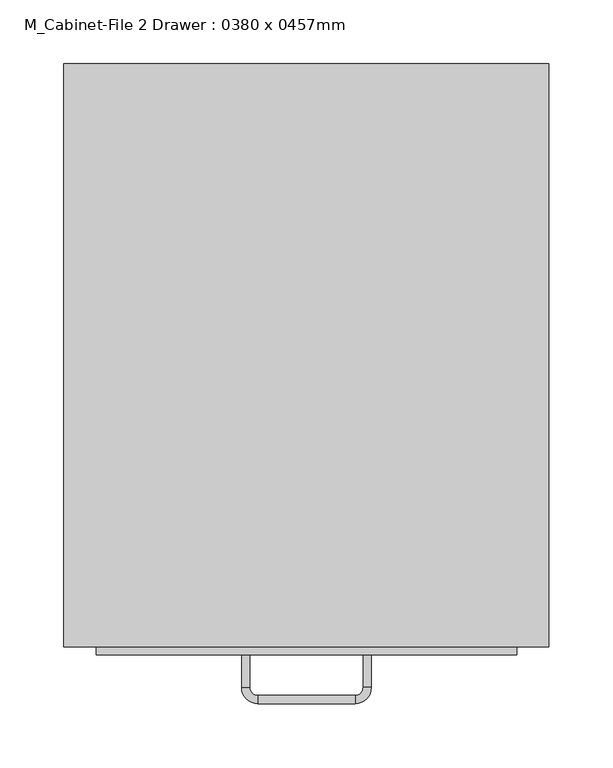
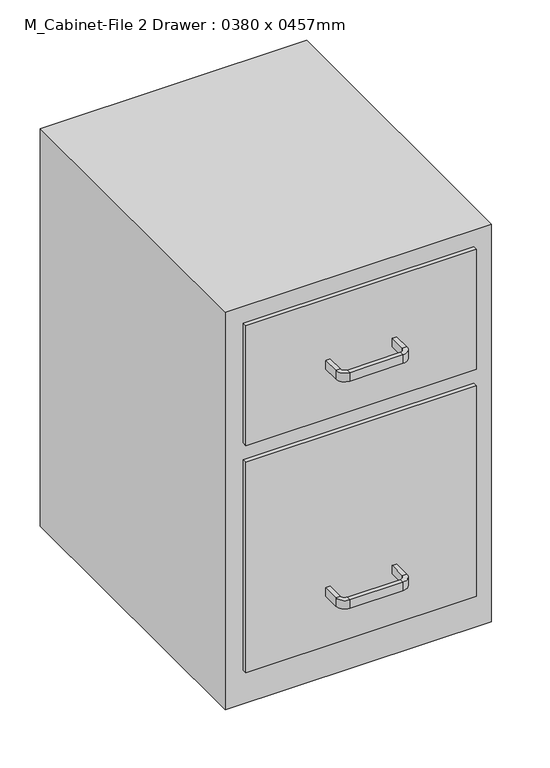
"""IFC4 building model written with IfcOpenShell, lengths in millimetres: furniture geometry, M_Cabinet-File 2 Drawer : 0380 x 0457mm."""

from ifc_helpers import new_model, si_unit, frame, origin, origin_with_axes, place, context, project, spatial, polyline, circle_curve, outline, extrude, source, transform, mapped, element, save
from ifc_brep_helpers import plane_surface, cylinder_surface, revolved_surface, advanced_brep


def m_cabinet_file_2_drawer_0380_x_0457mm_73eb37cc(model_context):
    return source(origin(), model_context, "Body", "SolidModel", [
        extrude(outline(polyline([(36.703553, -376.9843001), (-292.496447, -376.9843001), (-292.496447, -370.6343001), (36.703553, -370.6343001), (36.703553, -376.9843001)])), frame((0.0, 0.0, 393.7), z_axis=(0.0, 0.0, 1.0), x_axis=(1.0, 0.0, 0.0)), (0.0, 0.0, 1.0), 180.9),
        extrude(outline(polyline([(36.703553, -376.9843001), (-292.496447, -376.9843001), (-292.496447, -370.6343001), (36.703553, -370.6343001), (36.703553, -376.9843001)])), frame((0.0, 0.0, 50.8), z_axis=(0.0, 0.0, 1.0), x_axis=(1.0, 0.0, 0.0)), (0.0, 0.0, 1.0), 317.5),
        advanced_brep(
        [(-172.346447, -376.9843001, 127.0), (-178.696447, -376.9843001, 127.0), (-178.696447, -376.9843001, 139.7), (-172.346447, -376.9843001, 139.7), (-172.346447, -402.3843001, 127.0), (-178.696447, -402.3843001, 127.0), (-178.696447, -402.3843001, 139.7), (-172.346447, -402.3843001, 139.7), (-165.996447, -415.0843001, 127.0), (-165.996447, -408.7343001, 127.0), (-165.996447, -415.0843001, 139.7), (-165.996447, -408.7343001, 139.7), (-89.796447, -408.7343001, 127.0), (-89.796447, -415.0843001, 127.0), (-89.796447, -415.0843001, 139.7), (-89.796447, -408.7343001, 139.7), (-77.096447, -402.3843001, 127.0), (-83.446447, -402.3843001, 127.0), (-77.096447, -402.3843001, 139.7), (-83.446447, -402.3843001, 139.7), (-83.446447, -376.9843001, 127.0), (-83.446447, -376.9843001, 139.7), (-77.096447, -376.9843001, 139.7), (-77.096447, -376.9843001, 127.0)],
        [
            (0, 1),
            (1, 2),
            (2, 3),
            (3, 0),
            (0, 4),
            (4, 5),
            (5, 1),
            (5, 6),
            (6, 2),
            (6, 7),
            (7, 3),
            (7, 4),
            (8, 5, circle_curve(frame((-165.996447, -402.3843001, 127.0), z_axis=(0.0, 0.0, -1.0), x_axis=(-1.0, 0.0, 0.0)), 12.7)),
            (4, 9, circle_curve(frame((-165.996447, -402.3843001, 127.0), z_axis=(0.0, 0.0, 1.0), x_axis=(-1.0, 0.0, 0.0)), 6.35)),
            (9, 8),
            (10, 6, circle_curve(frame((-165.996447, -402.3843001, 139.7), z_axis=(0.0, 0.0, -1.0), x_axis=(-1.0, 0.0, 0.0)), 12.7)),
            (8, 10),
            (11, 7, circle_curve(frame((-165.996447, -402.3843001, 139.7), z_axis=(0.0, 0.0, -1.0), x_axis=(-1.0, 0.0, 0.0)), 6.35)),
            (10, 11),
            (11, 9),
            (9, 12),
            (12, 13),
            (13, 8),
            (13, 14),
            (14, 10),
            (14, 15),
            (15, 11),
            (15, 12),
            (16, 13, circle_curve(frame((-89.796447, -402.3843001, 127.0), z_axis=(0.0, 0.0, -1.0), x_axis=(0.0, -1.0, 0.0)), 12.7)),
            (12, 17, circle_curve(frame((-89.796447, -402.3843001, 127.0), z_axis=(0.0, 0.0, 1.0), x_axis=(0.0, -1.0, 0.0)), 6.35)),
            (17, 16),
            (18, 14, circle_curve(frame((-89.796447, -402.3843001, 139.7), z_axis=(0.0, 0.0, -1.0), x_axis=(0.0, -1.0, 0.0)), 12.7)),
            (16, 18),
            (19, 15, circle_curve(frame((-89.796447, -402.3843001, 139.7), z_axis=(0.0, 0.0, -1.0), x_axis=(0.0, -1.0, 0.0)), 6.35)),
            (18, 19),
            (19, 17),
            (20, 21),
            (21, 22),
            (22, 23),
            (23, 20),
            (17, 20),
            (23, 16),
            (22, 18),
            (21, 19),
        ],
        [
            plane_surface(frame((-661.3382215, -376.9843001, 0.0), z_axis=(0.0, 1.0, 0.0), x_axis=(0.0, 0.0, -1.0))),
            plane_surface(frame((-172.346447, -376.9843001, 127.0), z_axis=(0.0, 0.0, -1.0), x_axis=(0.0, -1.0, 0.0))),
            plane_surface(frame((-178.696447, -376.9843001, 127.0), z_axis=(-1.0, 0.0, 0.0), x_axis=(0.0, -1.0, 0.0))),
            plane_surface(frame((-178.696447, -376.9843001, 139.7), z_axis=(0.0, 0.0, 1.0), x_axis=(0.0, -1.0, 0.0))),
            plane_surface(frame((-172.346447, -376.9843001, 139.7), z_axis=(1.0, 0.0, 0.0), x_axis=(0.0, -1.0, 0.0))),
            plane_surface(frame((-165.996447, -402.3843001, 127.0), z_axis=(0.0, 0.0, -1.0), x_axis=(-1.0, 0.0, 0.0))),
            cylinder_surface(frame((-165.996447, -402.3843001, 0.0), z_axis=(0.0, 0.0, 1.0), x_axis=(-1.0, 0.0, 0.0)), 12.7),
            plane_surface(frame((-165.996447, -402.3843001, 139.7), z_axis=(0.0, 0.0, 1.0), x_axis=(-1.0, 0.0, 0.0))),
            revolved_surface(polyline([(-172.34644699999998, -402.3843001, 139.7), (-172.34644699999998, -402.3843001, 127.0)]), (-165.996447, -402.3843001, 0.0), (0.0, 0.0, 1.0)),
            plane_surface(frame((-165.996447, -408.7343001, 127.0), z_axis=(0.0, 0.0, -1.0), x_axis=(1.0, 0.0, 0.0))),
            plane_surface(frame((-165.996447, -415.0843001, 127.0), z_axis=(0.0, -1.0, 0.0), x_axis=(1.0, 0.0, 0.0))),
            plane_surface(frame((-165.996447, -415.0843001, 139.7), z_axis=(0.0, 0.0, 1.0), x_axis=(1.0, 0.0, 0.0))),
            plane_surface(frame((-165.996447, -408.7343001, 139.7), z_axis=(0.0, 1.0, 0.0), x_axis=(1.0, 0.0, 0.0))),
            plane_surface(frame((-89.796447, -402.3843001, 127.0), z_axis=(0.0, 0.0, -1.0), x_axis=(0.0, -1.0, 0.0))),
            cylinder_surface(frame((-89.796447, -402.3843001, 0.0), z_axis=(0.0, 0.0, 1.0), x_axis=(0.0, -1.0, 0.0)), 12.7),
            plane_surface(frame((-89.796447, -402.3843001, 139.7), z_axis=(0.0, 0.0, 1.0), x_axis=(0.0, -1.0, 0.0))),
            revolved_surface(polyline([(-89.796447, -408.73430010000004, 139.7), (-89.796447, -408.73430010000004, 127.0)]), (-89.796447, -402.3843001, 0.0), (0.0, 0.0, 1.0)),
            plane_surface(frame((-559.7382215, -376.9843001, 0.0), z_axis=(0.0, 1.0, 0.0), x_axis=(0.0, 0.0, 1.0))),
            plane_surface(frame((-83.446447, -402.3843001, 127.0), z_axis=(0.0, 0.0, -1.0), x_axis=(0.0, 1.0, 0.0))),
            plane_surface(frame((-77.096447, -402.3843001, 127.0), z_axis=(1.0, 0.0, 0.0), x_axis=(0.0, 1.0, 0.0))),
            plane_surface(frame((-77.096447, -402.3843001, 139.7), z_axis=(0.0, 0.0, 1.0), x_axis=(0.0, 1.0, 0.0))),
            plane_surface(frame((-83.446447, -402.3843001, 139.7), z_axis=(-1.0, 0.0, 0.0), x_axis=(0.0, 1.0, 0.0))),
        ],
        [
            (0, [[1, 2, 3, 4]]),
            (1, [[-1, 5, 6, 7]]),
            (2, [[-2, -7, 8, 9]]),
            (3, [[-3, -9, 10, 11]]),
            (4, [[-4, -11, 12, -5]]),
            (5, [[13, -6, 14, 15]]),
            (6, [[16, -8, -13, 17]]),
            (7, [[18, -10, -16, 19]]),
            (8, [[-14, -12, -18, 20]]),
            (9, [[-15, 21, 22, 23]]),
            (10, [[-17, -23, 24, 25]]),
            (11, [[-19, -25, 26, 27]]),
            (12, [[-20, -27, 28, -21]]),
            (13, [[29, -22, 30, 31]]),
            (14, [[32, -24, -29, 33]]),
            (15, [[34, -26, -32, 35]]),
            (16, [[-30, -28, -34, 36]]),
            (17, [[37, 38, 39, 40]]),
            (18, [[-31, 41, -40, 42]]),
            (19, [[-33, -42, -39, 43]]),
            (20, [[-35, -43, -38, 44]]),
            (21, [[-36, -44, -37, -41]]),
        ],
    ),
        advanced_brep(
        [(-172.346447, -376.9843001, 469.9), (-178.696447, -376.9843001, 469.9), (-178.696447, -376.9843001, 482.6), (-172.346447, -376.9843001, 482.6), (-172.346447, -402.3843001, 469.9), (-178.696447, -402.3843001, 469.9), (-178.696447, -402.3843001, 482.6), (-172.346447, -402.3843001, 482.6), (-165.996447, -415.0843001, 469.9), (-165.996447, -408.7343001, 469.9), (-165.996447, -415.0843001, 482.6), (-165.996447, -408.7343001, 482.6), (-89.796447, -408.7343001, 469.9), (-89.796447, -415.0843001, 469.9), (-89.796447, -415.0843001, 482.6), (-89.796447, -408.7343001, 482.6), (-77.096447, -402.3843001, 469.9), (-83.446447, -402.3843001, 469.9), (-77.096447, -402.3843001, 482.6), (-83.446447, -402.3843001, 482.6), (-83.446447, -376.9843001, 469.9), (-83.446447, -376.9843001, 482.6), (-77.096447, -376.9843001, 482.6), (-77.096447, -376.9843001, 469.9)],
        [
            (0, 1),
            (1, 2),
            (2, 3),
            (3, 0),
            (0, 4),
            (4, 5),
            (5, 1),
            (5, 6),
            (6, 2),
            (6, 7),
            (7, 3),
            (7, 4),
            (8, 5, circle_curve(frame((-165.996447, -402.3843001, 469.9), z_axis=(0.0, 0.0, -1.0), x_axis=(-1.0, 0.0, 0.0)), 12.7)),
            (4, 9, circle_curve(frame((-165.996447, -402.3843001, 469.9), z_axis=(0.0, 0.0, 1.0), x_axis=(-1.0, 0.0, 0.0)), 6.35)),
            (9, 8),
            (10, 6, circle_curve(frame((-165.996447, -402.3843001, 482.6), z_axis=(0.0, 0.0, -1.0), x_axis=(-1.0, 0.0, 0.0)), 12.7)),
            (8, 10),
            (11, 7, circle_curve(frame((-165.996447, -402.3843001, 482.6), z_axis=(0.0, 0.0, -1.0), x_axis=(-1.0, 0.0, 0.0)), 6.35)),
            (10, 11),
            (11, 9),
            (9, 12),
            (12, 13),
            (13, 8),
            (13, 14),
            (14, 10),
            (14, 15),
            (15, 11),
            (15, 12),
            (16, 13, circle_curve(frame((-89.796447, -402.3843001, 469.9), z_axis=(0.0, 0.0, -1.0), x_axis=(0.0, -1.0, 0.0)), 12.7)),
            (12, 17, circle_curve(frame((-89.796447, -402.3843001, 469.9), z_axis=(0.0, 0.0, 1.0), x_axis=(0.0, -1.0, 0.0)), 6.35)),
            (17, 16),
            (18, 14, circle_curve(frame((-89.796447, -402.3843001, 482.6), z_axis=(0.0, 0.0, -1.0), x_axis=(0.0, -1.0, 0.0)), 12.7)),
            (16, 18),
            (19, 15, circle_curve(frame((-89.796447, -402.3843001, 482.6), z_axis=(0.0, 0.0, -1.0), x_axis=(0.0, -1.0, 0.0)), 6.35)),
            (18, 19),
            (19, 17),
            (20, 21),
            (21, 22),
            (22, 23),
            (23, 20),
            (17, 20),
            (23, 16),
            (22, 18),
            (21, 19),
        ],
        [
            plane_surface(frame((-661.3382215, -376.9843001, 0.0), z_axis=(0.0, 1.0, 0.0), x_axis=(0.0, 0.0, -1.0))),
            plane_surface(frame((-172.346447, -376.9843001, 469.9), z_axis=(0.0, 0.0, -1.0), x_axis=(0.0, -1.0, 0.0))),
            plane_surface(frame((-178.696447, -376.9843001, 469.9), z_axis=(-1.0, 0.0, 0.0), x_axis=(0.0, -1.0, 0.0))),
            plane_surface(frame((-178.696447, -376.9843001, 482.6), z_axis=(0.0, 0.0, 1.0), x_axis=(0.0, -1.0, 0.0))),
            plane_surface(frame((-172.346447, -376.9843001, 482.6), z_axis=(1.0, 0.0, 0.0), x_axis=(0.0, -1.0, 0.0))),
            plane_surface(frame((-165.996447, -402.3843001, 469.9), z_axis=(0.0, 0.0, -1.0), x_axis=(-1.0, 0.0, 0.0))),
            cylinder_surface(frame((-165.996447, -402.3843001, 0.0), z_axis=(0.0, 0.0, 1.0), x_axis=(-1.0, 0.0, 0.0)), 12.7),
            plane_surface(frame((-165.996447, -402.3843001, 482.6), z_axis=(0.0, 0.0, 1.0), x_axis=(-1.0, 0.0, 0.0))),
            revolved_surface(polyline([(-172.34644699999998, -402.3843001, 482.6), (-172.34644699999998, -402.3843001, 469.9)]), (-165.996447, -402.3843001, 0.0), (0.0, 0.0, 1.0)),
            plane_surface(frame((-165.996447, -408.7343001, 469.9), z_axis=(0.0, 0.0, -1.0), x_axis=(1.0, 0.0, 0.0))),
            plane_surface(frame((-165.996447, -415.0843001, 469.9), z_axis=(0.0, -1.0, 0.0), x_axis=(1.0, 0.0, 0.0))),
            plane_surface(frame((-165.996447, -415.0843001, 482.6), z_axis=(0.0, 0.0, 1.0), x_axis=(1.0, 0.0, 0.0))),
            plane_surface(frame((-165.996447, -408.7343001, 482.6), z_axis=(0.0, 1.0, 0.0), x_axis=(1.0, 0.0, 0.0))),
            plane_surface(frame((-89.796447, -402.3843001, 469.9), z_axis=(0.0, 0.0, -1.0), x_axis=(0.0, -1.0, 0.0))),
            cylinder_surface(frame((-89.796447, -402.3843001, 0.0), z_axis=(0.0, 0.0, 1.0), x_axis=(0.0, -1.0, 0.0)), 12.7),
            plane_surface(frame((-89.796447, -402.3843001, 482.6), z_axis=(0.0, 0.0, 1.0), x_axis=(0.0, -1.0, 0.0))),
            revolved_surface(polyline([(-89.796447, -408.73430010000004, 482.6), (-89.796447, -408.73430010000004, 469.9)]), (-89.796447, -402.3843001, 0.0), (0.0, 0.0, 1.0)),
            plane_surface(frame((-559.7382215, -376.9843001, 0.0), z_axis=(0.0, 1.0, 0.0), x_axis=(0.0, 0.0, 1.0))),
            plane_surface(frame((-83.446447, -402.3843001, 469.9), z_axis=(0.0, 0.0, -1.0), x_axis=(0.0, 1.0, 0.0))),
            plane_surface(frame((-77.096447, -402.3843001, 469.9), z_axis=(1.0, 0.0, 0.0), x_axis=(0.0, 1.0, 0.0))),
            plane_surface(frame((-77.096447, -402.3843001, 482.6), z_axis=(0.0, 0.0, 1.0), x_axis=(0.0, 1.0, 0.0))),
            plane_surface(frame((-83.446447, -402.3843001, 482.6), z_axis=(-1.0, 0.0, 0.0), x_axis=(0.0, 1.0, 0.0))),
        ],
        [
            (0, [[1, 2, 3, 4]]),
            (1, [[-1, 5, 6, 7]]),
            (2, [[-2, -7, 8, 9]]),
            (3, [[-3, -9, 10, 11]]),
            (4, [[-4, -11, 12, -5]]),
            (5, [[13, -6, 14, 15]]),
            (6, [[16, -8, -13, 17]]),
            (7, [[18, -10, -16, 19]]),
            (8, [[-14, -12, -18, 20]]),
            (9, [[-15, 21, 22, 23]]),
            (10, [[-17, -23, 24, 25]]),
            (11, [[-19, -25, 26, 27]]),
            (12, [[-20, -27, 28, -21]]),
            (13, [[29, -22, 30, 31]]),
            (14, [[32, -24, -29, 33]]),
            (15, [[34, -26, -32, 35]]),
            (16, [[-30, -28, -34, 36]]),
            (17, [[37, 38, 39, 40]]),
            (18, [[-31, 41, -40, 42]]),
            (19, [[-33, -42, -39, 43]]),
            (20, [[-35, -43, -38, 44]]),
            (21, [[-36, -44, -37, -41]]),
        ],
    ),
        extrude(outline(polyline([(62.103553, 86.3656999), (62.103553, -370.6343001), (-317.896447, -370.6343001), (-317.896447, 86.3656999), (62.103553, 86.3656999)])), origin_with_axes(), (0.0, 0.0, 1.0), 600.0),
    ])


if __name__ == "__main__":
    model = new_model("IFC4")
    model_context = context("Model", 3, world=origin())
    ifc_project = project(units=[si_unit("LENGTHUNIT", "METRE", prefix="MILLI")], contexts=[model_context])
    site = spatial("IfcSite", under=ifc_project)
    building = spatial("IfcBuilding", under=site)
    placement = place(None, origin())
    m_cabinet_file_2_drawer_0380_x_0457mm_shape = m_cabinet_file_2_drawer_0380_x_0457mm_73eb37cc(model_context)
    element("IfcFurniture", 1, ObjectType="M_Cabinet-File 2 Drawer : 0380 x 0457mm", at=placement, inside=building, context=model_context, shape_type="MappedRepresentation", body=[
        mapped(m_cabinet_file_2_drawer_0380_x_0457mm_shape, transform((0.0, 0.0, 0.0), x_axis=(1.0, 0.0, 0.0), y_axis=(0.0, 1.0, 0.0), z_axis=(0.0, 0.0, 1.0))),
    ])
    save(model, "model.ifc")
